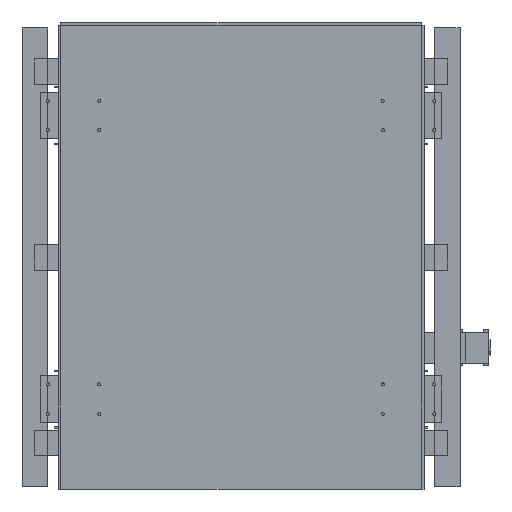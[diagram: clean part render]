
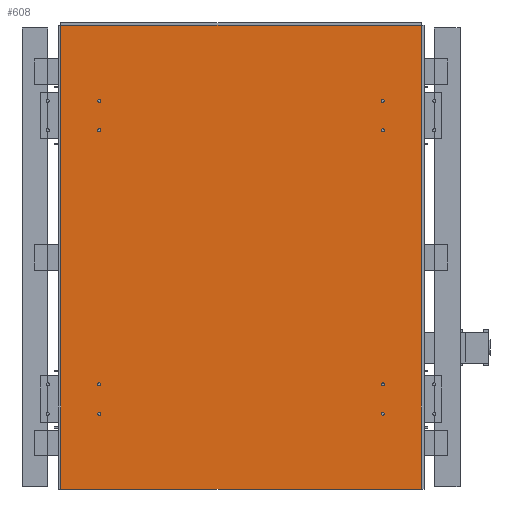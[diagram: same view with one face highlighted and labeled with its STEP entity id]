
A CAD part, top view. The second image highlights one B-rep face of the part: STEP entity #608.
In plain terms, the highlighted planar face has unit normal (0, 0, 1).
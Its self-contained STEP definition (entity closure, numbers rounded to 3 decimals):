
#294 = VERTEX_POINT('',#295);
#295 = CARTESIAN_POINT('',(-700.,-900.,1300.));
#302 = PLANE('',#303);
#303 = AXIS2_PLACEMENT_3D('',#304,#305,#306);
#304 = CARTESIAN_POINT('',(-700.,-900.,1290.));
#305 = DIRECTION('',(1.,0.,-0.));
#306 = DIRECTION('',(0.,0.,1.));
#314 = PLANE('',#315);
#315 = AXIS2_PLACEMENT_3D('',#316,#317,#318);
#316 = CARTESIAN_POINT('',(-700.,-900.,1290.));
#317 = DIRECTION('',(-0.,1.,0.));
#318 = DIRECTION('',(0.,0.,1.));
#355 = VERTEX_POINT('',#356);
#356 = CARTESIAN_POINT('',(-700.,900.,1300.));
#370 = PLANE('',#371);
#371 = AXIS2_PLACEMENT_3D('',#372,#373,#374);
#372 = CARTESIAN_POINT('',(-700.,900.,1290.));
#373 = DIRECTION('',(-0.,1.,0.));
#374 = DIRECTION('',(0.,0.,1.));
#382 = EDGE_CURVE('',#294,#355,#383,.T.);
#383 = SURFACE_CURVE('',#384,(#388,#395),.PCURVE_S1.);
#384 = LINE('',#385,#386);
#385 = CARTESIAN_POINT('',(-700.,-900.,1300.));
#386 = VECTOR('',#387,1.);
#387 = DIRECTION('',(-0.,1.,0.));
#388 = PCURVE('',#302,#389);
#389 = DEFINITIONAL_REPRESENTATION('',(#390),#394);
#390 = LINE('',#391,#392);
#391 = CARTESIAN_POINT('',(10.,0.));
#392 = VECTOR('',#393,1.);
#393 = DIRECTION('',(0.,-1.));
#394 = ( GEOMETRIC_REPRESENTATION_CONTEXT(2) 
PARAMETRIC_REPRESENTATION_CONTEXT() REPRESENTATION_CONTEXT('2D SPACE',''
  ) );
#395 = PCURVE('',#396,#401);
#396 = PLANE('',#397);
#397 = AXIS2_PLACEMENT_3D('',#398,#399,#400);
#398 = CARTESIAN_POINT('',(-700.,-900.,1300.));
#399 = DIRECTION('',(0.,0.,1.));
#400 = DIRECTION('',(1.,0.,-0.));
#401 = DEFINITIONAL_REPRESENTATION('',(#402),#406);
#402 = LINE('',#403,#404);
#403 = CARTESIAN_POINT('',(0.,0.));
#404 = VECTOR('',#405,1.);
#405 = DIRECTION('',(0.,1.));
#406 = ( GEOMETRIC_REPRESENTATION_CONTEXT(2) 
PARAMETRIC_REPRESENTATION_CONTEXT() REPRESENTATION_CONTEXT('2D SPACE',''
  ) );
#414 = VERTEX_POINT('',#415);
#415 = CARTESIAN_POINT('',(700.,-900.,1300.));
#422 = PLANE('',#423);
#423 = AXIS2_PLACEMENT_3D('',#424,#425,#426);
#424 = CARTESIAN_POINT('',(700.,-900.,1290.));
#425 = DIRECTION('',(1.,0.,-0.));
#426 = DIRECTION('',(0.,0.,1.));
#465 = VERTEX_POINT('',#466);
#466 = CARTESIAN_POINT('',(700.,900.,1300.));
#487 = EDGE_CURVE('',#414,#465,#488,.T.);
#488 = SURFACE_CURVE('',#489,(#493,#500),.PCURVE_S1.);
#489 = LINE('',#490,#491);
#490 = CARTESIAN_POINT('',(700.,-900.,1300.));
#491 = VECTOR('',#492,1.);
#492 = DIRECTION('',(-0.,1.,0.));
#493 = PCURVE('',#422,#494);
#494 = DEFINITIONAL_REPRESENTATION('',(#495),#499);
#495 = LINE('',#496,#497);
#496 = CARTESIAN_POINT('',(10.,0.));
#497 = VECTOR('',#498,1.);
#498 = DIRECTION('',(0.,-1.));
#499 = ( GEOMETRIC_REPRESENTATION_CONTEXT(2) 
PARAMETRIC_REPRESENTATION_CONTEXT() REPRESENTATION_CONTEXT('2D SPACE',''
  ) );
#500 = PCURVE('',#396,#501);
#501 = DEFINITIONAL_REPRESENTATION('',(#502),#506);
#502 = LINE('',#503,#504);
#503 = CARTESIAN_POINT('',(1400.,0.));
#504 = VECTOR('',#505,1.);
#505 = DIRECTION('',(0.,1.));
#506 = ( GEOMETRIC_REPRESENTATION_CONTEXT(2) 
PARAMETRIC_REPRESENTATION_CONTEXT() REPRESENTATION_CONTEXT('2D SPACE',''
  ) );
#533 = EDGE_CURVE('',#294,#414,#534,.T.);
#534 = SURFACE_CURVE('',#535,(#539,#546),.PCURVE_S1.);
#535 = LINE('',#536,#537);
#536 = CARTESIAN_POINT('',(-700.,-900.,1300.));
#537 = VECTOR('',#538,1.);
#538 = DIRECTION('',(1.,0.,-0.));
#539 = PCURVE('',#314,#540);
#540 = DEFINITIONAL_REPRESENTATION('',(#541),#545);
#541 = LINE('',#542,#543);
#542 = CARTESIAN_POINT('',(10.,0.));
#543 = VECTOR('',#544,1.);
#544 = DIRECTION('',(0.,1.));
#545 = ( GEOMETRIC_REPRESENTATION_CONTEXT(2) 
PARAMETRIC_REPRESENTATION_CONTEXT() REPRESENTATION_CONTEXT('2D SPACE',''
  ) );
#546 = PCURVE('',#396,#547);
#547 = DEFINITIONAL_REPRESENTATION('',(#548),#552);
#548 = LINE('',#549,#550);
#549 = CARTESIAN_POINT('',(0.,0.));
#550 = VECTOR('',#551,1.);
#551 = DIRECTION('',(1.,0.));
#552 = ( GEOMETRIC_REPRESENTATION_CONTEXT(2) 
PARAMETRIC_REPRESENTATION_CONTEXT() REPRESENTATION_CONTEXT('2D SPACE',''
  ) );
#580 = EDGE_CURVE('',#355,#465,#581,.T.);
#581 = SURFACE_CURVE('',#582,(#586,#593),.PCURVE_S1.);
#582 = LINE('',#583,#584);
#583 = CARTESIAN_POINT('',(-700.,900.,1300.));
#584 = VECTOR('',#585,1.);
#585 = DIRECTION('',(1.,0.,-0.));
#586 = PCURVE('',#370,#587);
#587 = DEFINITIONAL_REPRESENTATION('',(#588),#592);
#588 = LINE('',#589,#590);
#589 = CARTESIAN_POINT('',(10.,0.));
#590 = VECTOR('',#591,1.);
#591 = DIRECTION('',(0.,1.));
#592 = ( GEOMETRIC_REPRESENTATION_CONTEXT(2) 
PARAMETRIC_REPRESENTATION_CONTEXT() REPRESENTATION_CONTEXT('2D SPACE',''
  ) );
#593 = PCURVE('',#396,#594);
#594 = DEFINITIONAL_REPRESENTATION('',(#595),#599);
#595 = LINE('',#596,#597);
#596 = CARTESIAN_POINT('',(0.,1800.));
#597 = VECTOR('',#598,1.);
#598 = DIRECTION('',(1.,0.));
#599 = ( GEOMETRIC_REPRESENTATION_CONTEXT(2) 
PARAMETRIC_REPRESENTATION_CONTEXT() REPRESENTATION_CONTEXT('2D SPACE',''
  ) );
#608 = ADVANCED_FACE('',(#609),#396,.T.);
#609 = FACE_BOUND('',#610,.T.);
#610 = EDGE_LOOP('',(#611,#612,#613,#614));
#611 = ORIENTED_EDGE('',*,*,#382,.F.);
#612 = ORIENTED_EDGE('',*,*,#533,.T.);
#613 = ORIENTED_EDGE('',*,*,#487,.T.);
#614 = ORIENTED_EDGE('',*,*,#580,.F.);
